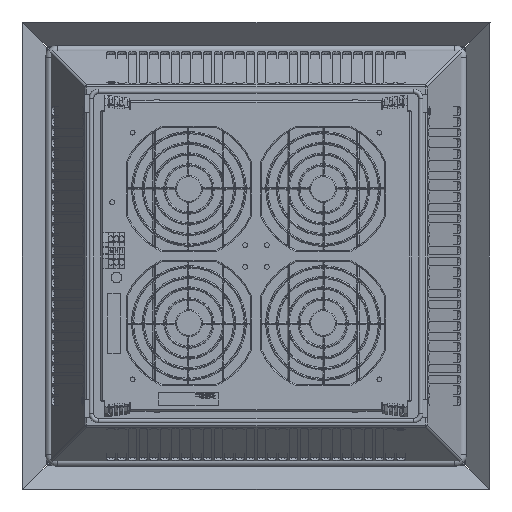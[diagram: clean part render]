
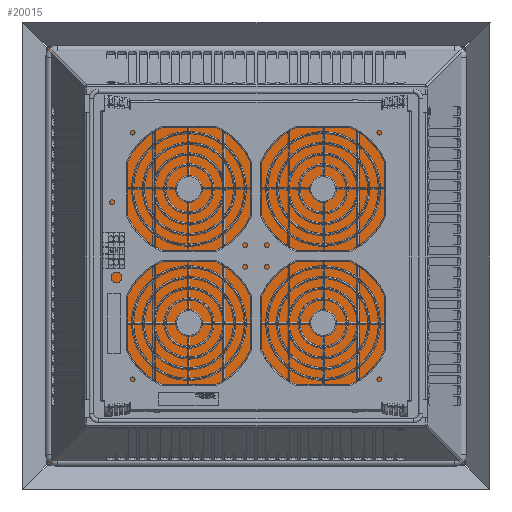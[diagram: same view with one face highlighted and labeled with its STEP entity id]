
A CAD part, front view. The second image highlights one B-rep face of the part: STEP entity #20015.
In plain terms, the highlighted planar face has unit normal (0, -1, 0).
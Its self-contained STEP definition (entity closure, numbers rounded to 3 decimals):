
#19357 = EDGE_LOOP ( 'NONE', ( #20031, #20017 ) ) ;
#19597 = VERTEX_POINT ( 'NONE', #140381 ) ;
#19692 = EDGE_CURVE ( 'NONE', #19713, #19597, #140330, .T. ) ;
#19713 = VERTEX_POINT ( 'NONE', #140020 ) ;
#19728 = EDGE_CURVE ( 'NONE', #19597, #20463, #140256, .T. ) ;
#19985 = EDGE_LOOP ( 'NONE', ( #20050, #20316 ) ) ;
#20012 = EDGE_CURVE ( 'NONE', #20048, #20043, #142312, .T. ) ;
#20015 = ADVANCED_FACE ( 'NONE', ( #142301, #142300, #142146, #142296, #142292 ), #142290, .T. ) ;
#20017 = ORIENTED_EDGE ( 'NONE', *, *, #20032, .T. ) ;
#20031 = ORIENTED_EDGE ( 'NONE', *, *, #20012, .T. ) ;
#20032 = EDGE_CURVE ( 'NONE', #20043, #20048, #142071, .T. ) ;
#20043 = VERTEX_POINT ( 'NONE', #142089 ) ;
#20048 = VERTEX_POINT ( 'NONE', #142092 ) ;
#20050 = ORIENTED_EDGE ( 'NONE', *, *, #20416, .T. ) ;
#20094 = EDGE_CURVE ( 'NONE', #20143, #20422, #142370, .T. ) ;
#20099 = ORIENTED_EDGE ( 'NONE', *, *, #20094, .T. ) ;
#20102 = EDGE_CURVE ( 'NONE', #20422, #20143, #142400, .T. ) ;
#20104 = VERTEX_POINT ( 'NONE', #142501 ) ;
#20105 = ORIENTED_EDGE ( 'NONE', *, *, #20108, .T. ) ;
#20108 = EDGE_CURVE ( 'NONE', #20419, #20417, #142367, .T. ) ;
#20113 = ORIENTED_EDGE ( 'NONE', *, *, #20426, .T. ) ;
#20114 = EDGE_LOOP ( 'NONE', ( #20119, #20113, #20169, #20140 ) ) ;
#20119 = ORIENTED_EDGE ( 'NONE', *, *, #19728, .T. ) ;
#20140 = ORIENTED_EDGE ( 'NONE', *, *, #19692, .T. ) ;
#20143 = VERTEX_POINT ( 'NONE', #142349 ) ;
#20146 = EDGE_LOOP ( 'NONE', ( #20318, #20105 ) ) ;
#20169 = ORIENTED_EDGE ( 'NONE', *, *, #20197, .T. ) ;
#20171 = VERTEX_POINT ( 'NONE', #142652 ) ;
#20197 = EDGE_CURVE ( 'NONE', #20201, #19713, #142625, .T. ) ;
#20201 = VERTEX_POINT ( 'NONE', #142657 ) ;
#20316 = ORIENTED_EDGE ( 'NONE', *, *, #20319, .T. ) ;
#20317 = EDGE_LOOP ( 'NONE', ( #20099, #20428 ) ) ;
#20318 = ORIENTED_EDGE ( 'NONE', *, *, #20435, .T. ) ;
#20319 = EDGE_CURVE ( 'NONE', #20171, #20104, #142905, .T. ) ;
#20416 = EDGE_CURVE ( 'NONE', #20104, #20171, #145067, .T. ) ;
#20417 = VERTEX_POINT ( 'NONE', #145026 ) ;
#20419 = VERTEX_POINT ( 'NONE', #145008 ) ;
#20422 = VERTEX_POINT ( 'NONE', #144825 ) ;
#20426 = EDGE_CURVE ( 'NONE', #20463, #20201, #144818, .T. ) ;
#20428 = ORIENTED_EDGE ( 'NONE', *, *, #20102, .T. ) ;
#20435 = EDGE_CURVE ( 'NONE', #20417, #20419, #144810, .T. ) ;
#20463 = VERTEX_POINT ( 'NONE', #144785 ) ;
#139903 = VECTOR ( 'NONE', #139998, 1000. ) ;
#139998 = DIRECTION ( 'NONE',  ( 1., 0., 0. ) ) ;
#139999 = CARTESIAN_POINT ( 'NONE',  ( -195., 66.9, -194.172 ) ) ;
#140020 = CARTESIAN_POINT ( 'NONE',  ( -194.172, 66.9, 194.172 ) ) ;
#140256 = LINE ( 'NONE', #139999, #139903 ) ;
#140325 = DIRECTION ( 'NONE',  ( 0., 0., -1. ) ) ;
#140327 = VECTOR ( 'NONE', #140325, 1000. ) ;
#140328 = CARTESIAN_POINT ( 'NONE',  ( -194.172, 66.9, 195. ) ) ;
#140330 = LINE ( 'NONE', #140328, #140327 ) ;
#140381 = CARTESIAN_POINT ( 'NONE',  ( -194.172, 66.9, -194.172 ) ) ;
#142071 = CIRCLE ( 'NONE', #142252, 2.5 ) ;
#142089 = CARTESIAN_POINT ( 'NONE',  ( 150., 66.9, 152.5 ) ) ;
#142092 = CARTESIAN_POINT ( 'NONE',  ( 150., 66.9, 147.5 ) ) ;
#142146 = FACE_BOUND ( 'NONE', #20317, .T. ) ;
#142152 = CARTESIAN_POINT ( 'NONE',  ( 150., 66.9, 150. ) ) ;
#142252 = AXIS2_PLACEMENT_3D ( 'NONE', #142261, #142259, #142257 ) ;
#142253 = DIRECTION ( 'NONE',  ( 0., 0., -1. ) ) ;
#142254 = DIRECTION ( 'NONE',  ( 0., -1., 0. ) ) ;
#142257 = DIRECTION ( 'NONE',  ( 0., 0., -1. ) ) ;
#142259 = DIRECTION ( 'NONE',  ( 0., 1., 0. ) ) ;
#142261 = CARTESIAN_POINT ( 'NONE',  ( 150., 66.9, 150. ) ) ;
#142285 = DIRECTION ( 'NONE',  ( 0., 0., -1. ) ) ;
#142286 = DIRECTION ( 'NONE',  ( 0., 1., 0. ) ) ;
#142287 = AXIS2_PLACEMENT_3D ( 'NONE', #142152, #142286, #142285 ) ;
#142290 = PLANE ( 'NONE',  #142302 ) ;
#142292 = FACE_OUTER_BOUND ( 'NONE', #20114, .T. ) ;
#142294 = CARTESIAN_POINT ( 'NONE',  ( -195., 66.9, -195. ) ) ;
#142296 = FACE_BOUND ( 'NONE', #20146, .T. ) ;
#142300 = FACE_BOUND ( 'NONE', #19985, .T. ) ;
#142301 = FACE_BOUND ( 'NONE', #19357, .T. ) ;
#142302 = AXIS2_PLACEMENT_3D ( 'NONE', #142294, #142254, #142253 ) ;
#142312 = CIRCLE ( 'NONE', #142287, 2.5 ) ;
#142349 = CARTESIAN_POINT ( 'NONE',  ( -150., 66.9, -152.5 ) ) ;
#142363 = AXIS2_PLACEMENT_3D ( 'NONE', #142504, #142503, #142502 ) ;
#142367 = CIRCLE ( 'NONE', #142483, 2.5 ) ;
#142370 = CIRCLE ( 'NONE', #142363, 2.5 ) ;
#142400 = CIRCLE ( 'NONE', #142493, 2.5 ) ;
#142480 = DIRECTION ( 'NONE',  ( 0., 0., -1. ) ) ;
#142481 = DIRECTION ( 'NONE',  ( 0., 1., 0. ) ) ;
#142482 = CARTESIAN_POINT ( 'NONE',  ( -150., 66.9, 150. ) ) ;
#142483 = AXIS2_PLACEMENT_3D ( 'NONE', #142482, #142481, #142480 ) ;
#142490 = DIRECTION ( 'NONE',  ( 0., 0., -1. ) ) ;
#142491 = DIRECTION ( 'NONE',  ( 0., 1., 0. ) ) ;
#142492 = CARTESIAN_POINT ( 'NONE',  ( -150., 66.9, -150. ) ) ;
#142493 = AXIS2_PLACEMENT_3D ( 'NONE', #142492, #142491, #142490 ) ;
#142501 = CARTESIAN_POINT ( 'NONE',  ( 150., 66.9, -152.5 ) ) ;
#142502 = DIRECTION ( 'NONE',  ( 0., 0., -1. ) ) ;
#142503 = DIRECTION ( 'NONE',  ( 0., 1., 0. ) ) ;
#142504 = CARTESIAN_POINT ( 'NONE',  ( -150., 66.9, -150. ) ) ;
#142531 = DIRECTION ( 'NONE',  ( -1., 0., 0. ) ) ;
#142532 = CARTESIAN_POINT ( 'NONE',  ( 2145., 66.9, 194.172 ) ) ;
#142625 = LINE ( 'NONE', #142532, #142660 ) ;
#142652 = CARTESIAN_POINT ( 'NONE',  ( 150., 66.9, -147.5 ) ) ;
#142657 = CARTESIAN_POINT ( 'NONE',  ( 194.172, 66.9, 194.172 ) ) ;
#142660 = VECTOR ( 'NONE', #142531, 1000. ) ;
#142905 = CIRCLE ( 'NONE', #142940, 2.5 ) ;
#142913 = DIRECTION ( 'NONE',  ( 0., 0., -1. ) ) ;
#142914 = DIRECTION ( 'NONE',  ( 0., 1., 0. ) ) ;
#142915 = CARTESIAN_POINT ( 'NONE',  ( 150., 66.9, -150. ) ) ;
#142940 = AXIS2_PLACEMENT_3D ( 'NONE', #142915, #142914, #142913 ) ;
#144759 = CARTESIAN_POINT ( 'NONE',  ( 150., 66.9, -150. ) ) ;
#144785 = CARTESIAN_POINT ( 'NONE',  ( 194.172, 66.9, -194.172 ) ) ;
#144793 = DIRECTION ( 'NONE',  ( 0., 0., -1. ) ) ;
#144794 = DIRECTION ( 'NONE',  ( 0., 1., 0. ) ) ;
#144800 = CARTESIAN_POINT ( 'NONE',  ( -150., 66.9, 150. ) ) ;
#144810 = CIRCLE ( 'NONE', #145012, 2.5 ) ;
#144811 = DIRECTION ( 'NONE',  ( 0., 0., 1. ) ) ;
#144812 = VECTOR ( 'NONE', #144811, 1000. ) ;
#144816 = CARTESIAN_POINT ( 'NONE',  ( 194.172, 66.9, -195. ) ) ;
#144818 = LINE ( 'NONE', #144816, #144812 ) ;
#144820 = DIRECTION ( 'NONE',  ( 0., 0., -1. ) ) ;
#144822 = DIRECTION ( 'NONE',  ( 0., 1., 0. ) ) ;
#144825 = CARTESIAN_POINT ( 'NONE',  ( -150., 66.9, -147.5 ) ) ;
#145008 = CARTESIAN_POINT ( 'NONE',  ( -150., 66.9, 152.5 ) ) ;
#145012 = AXIS2_PLACEMENT_3D ( 'NONE', #144800, #144794, #144793 ) ;
#145026 = CARTESIAN_POINT ( 'NONE',  ( -150., 66.9, 147.5 ) ) ;
#145058 = AXIS2_PLACEMENT_3D ( 'NONE', #144759, #144822, #144820 ) ;
#145067 = CIRCLE ( 'NONE', #145058, 2.5 ) ;
